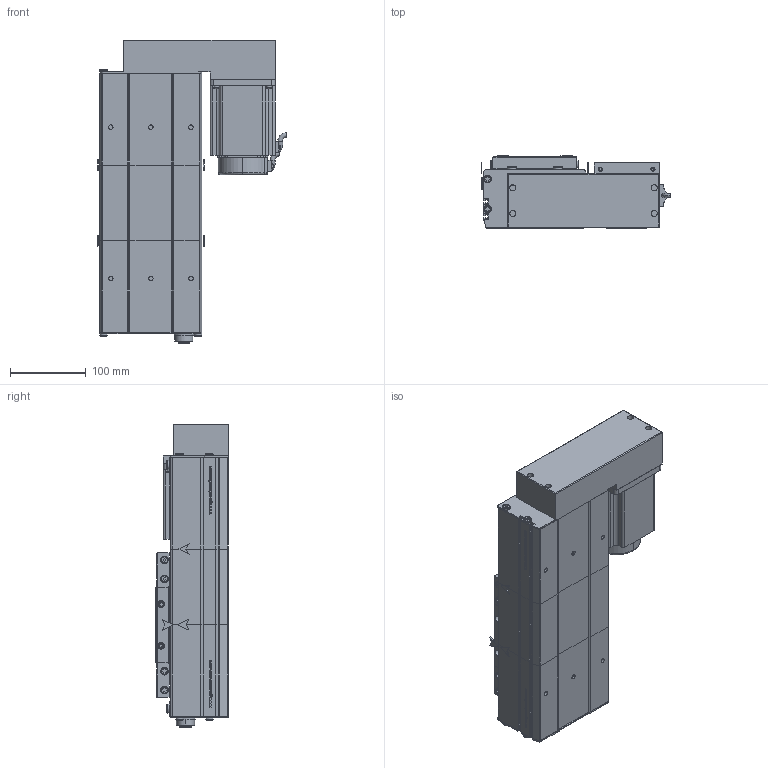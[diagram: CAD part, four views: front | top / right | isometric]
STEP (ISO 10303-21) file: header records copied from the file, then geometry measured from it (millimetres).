
FILE_DESCRIPTION (( 'STEP AP214' ), '1' );
FILE_NAME ('D14 CSH BL S100.STEP', '2010-06-29T14:56:20', ( 'Conseil Régional Haute-Normandie' ), ( 'Conseil Régional Haute-Normandie' ), 'SwSTEP 2.0', 'SolidWorks 2010', '' );
FILE_SCHEMA (( 'AUTOMOTIVE_DESIGN' ));
Length unit declared in the file: millimetre
Products named in the file (26): Conecteur2_Default; Conecteur_Default; vis CHC M5.5; corps CSH 100; course CSH S100; chariot supérieur D14; charriot inférieur D14; vis CHC M7; plaque de bout tail d14; corps tail d14; chariot D14; couvercle CSH course S100; Tail D14; vis CHC M5; couvercle tail; Vis CHC M8; plaque de maintient D14; codeur GMB 90 100 310; corps GMB 90 100 310; avant GMB 90 100 310; GMB 90 100 310; D14 CSH BL S100; couvercle head d14; plaque de bout head D14 BL; corps head d14; Head D14 CSH BL
Assembly tree (48 placements, depth 4):
  D14 CSH BL S100
    Head D14 CSH BL
      vis CHC M5.5  x4
      GMB 90 100 310
        Conecteur2_Default
        Conecteur_Default
        avant GMB 90 100 310
        corps GMB 90 100 310
        codeur GMB 90 100 310
      plaque de maintient D14
      couvercle head d14
      plaque de bout head D14 BL
      Vis CHC M8  x2
      corps head d14
      vis CHC M7  x2
    Tail D14
      corps tail d14
      vis CHC M7  x4
      plaque de bout tail d14
      Vis CHC M8  x2
      plaque de maintient D14
      couvercle tail
    course CSH S100
      couvercle CSH course S100
      corps CSH 100
    chariot D14
      vis CHC M5  x4
      vis CHC M7  x8
      chariot supérieur D14
      charriot inférieur D14
Bounding box: 250.75 x 95.75 x 401.3 mm (x, y, z)
Volume: 2749499.3 mm3; surface area: 612396.5 mm2
Topology: 49 solids, 49 shells, 2420 faces, 6199 edges, 4086 vertices
Faces by surface type: plane 1375, bspline 538, cylinder 394, torus 61, cone 52
Entity records: 106544 total; most frequent: CARTESIAN_POINT 57819, ORIENTED_EDGE 10650, DIRECTION 7904, EDGE_CURVE 5325, LINE 3610, VECTOR 3610, VERTEX_POINT 3534, EDGE_LOOP 2271
